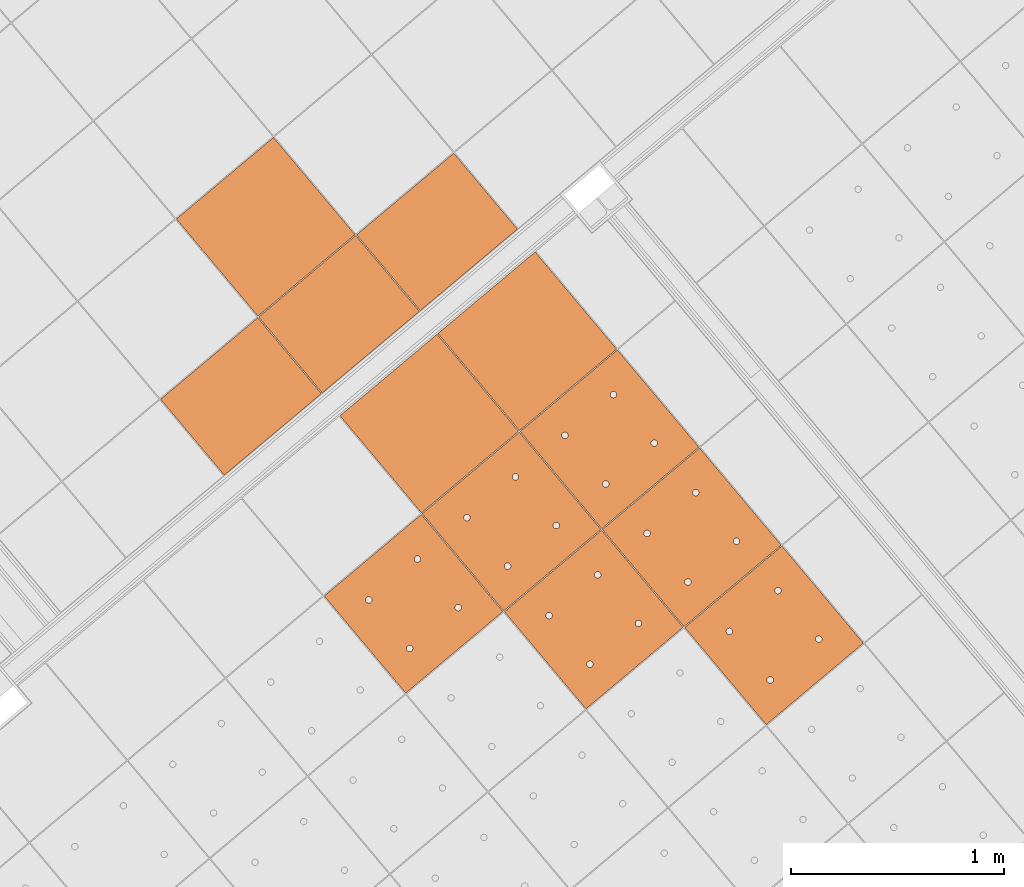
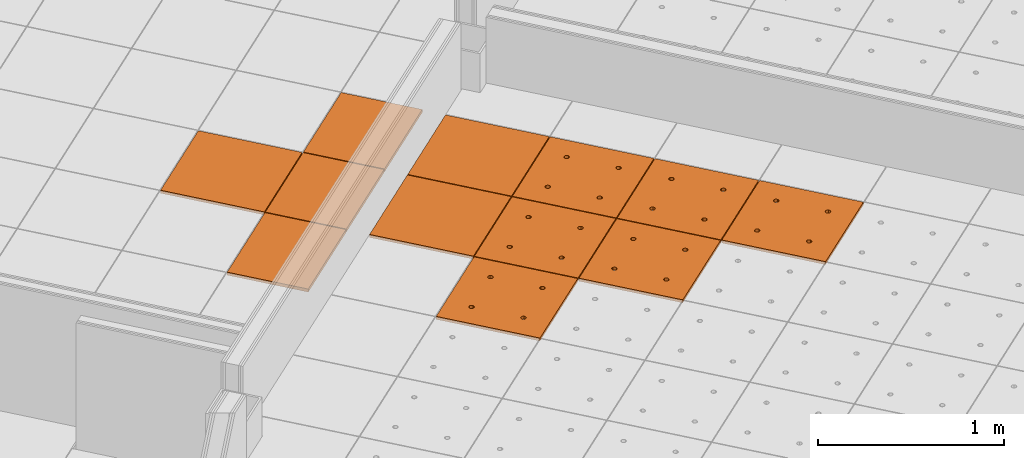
# One storey, part 146 of 338: 12 proxies, 2 elements without a shape of their own.
"""IFC2X3 building model written with IfcOpenShell, lengths in millimetres."""

from ifc_helpers import new_model, entity, si_unit, converted_unit, derived_unit, money_unit, direction, frame, origin_with_axes, place, context, subcontext, project, spatial, faceted_brep, source, transform, mapped, material, type_object, type_shapes, element, aggregate, save


model = new_model("IFC2X3")

# Units and contexts
model_context = context("Model", 3, precision=0.01, world=origin_with_axes(), true_north=direction((0.0, 1.0)))
plan_context = context("Plan", 3, precision=0.01, world=origin_with_axes(), true_north=direction((0.0, 1.0)))
body_context = subcontext(model_context, "Body", "Model", "MODEL_VIEW")
ifc_project = project(units=[si_unit("LENGTHUNIT", "METRE", prefix="MILLI"), si_unit("AREAUNIT", "SQUARE_METRE"), si_unit("VOLUMEUNIT", "CUBIC_METRE"), converted_unit("PLANEANGLEUNIT", "DEGREE", entity("IfcPlaneAngleMeasure", 0.0174532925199), si_unit("PLANEANGLEUNIT", "RADIAN"), dimensions=[0, 0, 0, 0, 0, 0, 0]), money_unit("EUR"), converted_unit("TIMEUNIT", "Year", entity("IfcTimeMeasure", 31556926.0), si_unit("TIMEUNIT", "SECOND"), dimensions=[0, 0, 1, 0, 0, 0, 0]), si_unit("MASSUNIT", "GRAM", prefix="KILO"), si_unit("THERMODYNAMICTEMPERATUREUNIT", "DEGREE_CELSIUS"), si_unit("LUMINOUSINTENSITYUNIT", "LUMEN"), si_unit("ENERGYUNIT", "JOULE", prefix="MEGA"), derived_unit("THERMALCONDUCTANCEUNIT", [(si_unit("POWERUNIT", "WATT"), 1), (si_unit("LENGTHUNIT", "METRE"), -1), (si_unit("THERMODYNAMICTEMPERATUREUNIT", "KELVIN"), -1)]), derived_unit("SPECIFICHEATCAPACITYUNIT", [(si_unit("ENERGYUNIT", "JOULE"), 1), (si_unit("MASSUNIT", "GRAM", prefix="KILO"), -1), (si_unit("THERMODYNAMICTEMPERATUREUNIT", "KELVIN"), -1)]), derived_unit("MASSDENSITYUNIT", [(si_unit("MASSUNIT", "GRAM", prefix="KILO"), 1), (si_unit("VOLUMEUNIT", "CUBIC_METRE"), -1)])], contexts=[model_context, plan_context])

# Site, building, storey
site_placement = place(None, origin_with_axes())
site = spatial("IfcSite", under=ifc_project, at=site_placement, Name="Fortuinstraat Woensdrecht", CompositionType="ELEMENT")
building_placement = place(site_placement, origin_with_axes())
building = spatial("IfcBuilding", under=site, at=building_placement, Name="IKC Fortuna", CompositionType="ELEMENT")
storey_placement = place(building_placement, origin_with_axes())
storey = spatial("IfcBuildingStorey", under=building, at=storey_placement, Name="00 begane grond", CompositionType="ELEMENT", Elevation=0.0)

# Covering, proxies
covering_type = type_object("IfcCoveringType", Name="Curtain Wall Type", PredefinedType="CEILING")
covering_1_placement = place(storey_placement, frame((17937.1227498, -4186.27868692, 4660.0), z_axis=(0.0, 0.0, 1.0), x_axis=(1.0, 0.0, 0.0)))
covering_1 = element("IfcCovering", 1, at=covering_1_placement, inside=storey, type_object=covering_type, Name="45_Plafondafwerking_P02", PredefinedType="CEILING")
ifc_material = material(Name="Gipsplaat")
building_element_proxy_type_1 = type_object("IfcBuildingElementProxyType", Name="Distinct Panel 600 x 600 x 20", PredefinedType="NOTDEFINED")
shared_shape_1 = source(origin_with_axes(), body_context, "Body", "Brep", [
    faceted_brep([(2.49999999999, 2.5, -10.0), (597.5, 2.49999999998, -10.0), (597.5, 2.49999999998, 10.0), (2.49999999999, 2.5, 10.0), (2.50000000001, 597.5, -10.0), (597.5, 597.5, -10.0), (597.5, 597.5, 10.0), (2.50000000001, 597.5, 10.0)], [[[0, 1, 2, 3]], [[0, 4, 5, 1]], [[1, 5, 6, 2]], [[3, 2, 6, 7]], [[4, 0, 3, 7]], [[5, 4, 7, 6]]]),
])
type_shapes(building_element_proxy_type_1, [shared_shape_1])
proxy_1_placement = place(covering_1_placement, frame((-4358.28029822, -2273.47858457, 2.18491891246e-10), z_axis=(0.0, 0.0, 1.0), x_axis=(1.0, 0.0, 0.0)))
proxy_1 = element("IfcBuildingElementProxy", 2, at=proxy_1_placement, type_object=building_element_proxy_type_1, material=ifc_material, Name="__Panel-D", context=body_context, shape_type="MappedRepresentation", body=[
    mapped(shared_shape_1, transform((36.9769427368, 422.649625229, 0.0), x_axis=(-0.766044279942, -0.642787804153, 0.0), y_axis=(0.642787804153, -0.766044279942, 0.0), z_axis=(0.0, 0.0, 1.0))),
])
building_element_proxy_type_2 = type_object("IfcBuildingElementProxyType", Name="Distinct Panel 600 x 470 x 20", PredefinedType="NOTDEFINED")
shared_shape_2 = source(origin_with_axes(), body_context, "Body", "Brep", [
    faceted_brep([(2.49999368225, 2.50000660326, -10.0), (597.499997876, 2.49999535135, -10.0), (597.499997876, 2.49999535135, 10.0), (2.49999368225, 2.50000660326, 10.0), (2.49999873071, 467.226768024, -10.0), (597.500011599, 467.226749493, -10.0), (597.500011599, 467.226749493, 10.0), (2.49999873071, 467.226768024, 10.0)], [[[0, 1, 2, 3]], [[0, 4, 5, 1]], [[1, 5, 6, 2]], [[3, 2, 6, 7]], [[4, 0, 3, 7]], [[5, 4, 7, 6]]]),
])
type_shapes(building_element_proxy_type_2, [shared_shape_2])
proxy_2_placement = place(covering_1_placement, frame((-4474.10320946, -3068.88029888, 2.3803181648e-10), z_axis=(0.0, 0.0, 1.0), x_axis=(1.0, 0.0, 0.0)))
proxy_2 = element("IfcBuildingElementProxy", 3, at=proxy_2_placement, type_object=building_element_proxy_type_2, material=ifc_material, Name="__Panel-D", context=body_context, shape_type="MappedRepresentation", body=[
    mapped(shared_shape_2, transform((78.8459684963, 372.752089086, 0.0), x_axis=(-0.766044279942, -0.642787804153, 0.0), y_axis=(0.642787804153, -0.766044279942, 0.0), z_axis=(0.0, 0.0, 1.0))),
])
proxy_3_placement = place(covering_1_placement, frame((-4014.47664149, -2683.20761639, 2.18491891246e-10), z_axis=(0.0, 0.0, 1.0), x_axis=(1.0, 0.0, 0.0)))
proxy_3 = element("IfcBuildingElementProxy", 4, at=proxy_3_placement, type_object=building_element_proxy_type_2, material=ifc_material, Name="__Panel-D", context=body_context, shape_type="MappedRepresentation", body=[
    mapped(shared_shape_2, transform((78.8459684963, 372.752089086, 0.0), x_axis=(-0.766044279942, -0.642787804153, 0.0), y_axis=(0.642787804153, -0.766044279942, 0.0), z_axis=(0.0, 0.0, 1.0))),
])
proxy_4_placement = place(covering_1_placement, frame((-3554.85007353, -2297.5349339, 1.98951966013e-10), z_axis=(0.0, 0.0, 1.0), x_axis=(1.0, 0.0, 0.0)))
proxy_4 = element("IfcBuildingElementProxy", 5, at=proxy_4_placement, type_object=building_element_proxy_type_2, material=ifc_material, Name="__Panel-D", context=body_context, shape_type="MappedRepresentation", body=[
    mapped(shared_shape_2, transform((78.8459684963, 372.752089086, 0.0), x_axis=(-0.766044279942, -0.642787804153, 0.0), y_axis=(0.642787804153, -0.766044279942, 0.0), z_axis=(0.0, 0.0, 1.0))),
])
aggregate(covering_1, [proxy_2, proxy_1, proxy_3, proxy_4])

covering_2_placement = place(storey_placement, frame((15150.6418133, -6622.13986243, 4660.0), z_axis=(0.0, 0.0, 1.0), x_axis=(1.0, 0.0, 0.0)))
covering_2 = element("IfcCovering", 6, at=covering_2_placement, inside=storey, type_object=covering_type, Name="45_Plafondafwerking_P01", PredefinedType="CEILING")
building_element_proxy_type_3 = type_object("IfcBuildingElementProxyType", Name="Main Panel 600 x 600 x 20", PredefinedType="NOTDEFINED")
shared_shape_3 = source(origin_with_axes(), body_context, "Body", "Brep", [
    faceted_brep([(2.49999999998, 2.49999999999, -10.0), (300.0, 2.49999999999, -10.0), (300.0, 2.49999999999, 10.0), (2.49999999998, 2.49999999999, 10.0), (2.49999999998, 300.0, -10.0), (2.49999999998, 597.5, -10.0), (300.0, 597.5, -10.0), (597.5, 597.5, -10.0), (597.5, 300.0, -10.0), (597.5, 2.49999999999, -10.0), (166.25, 450.06232995, -10.0), (165.79423259, 452.64711538, -10.0), (164.896546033, 455.11348892, -10.0), (163.58421608, 457.38651108, -10.0), (161.897117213, 459.39711721, -10.0), (159.886511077, 461.08421608, -10.0), (157.613488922, 462.39654603, -10.0), (155.147115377, 463.29423259, -10.0), (152.562329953, 463.75, -10.0), (149.937670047, 463.75, -10.0), (147.352884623, 463.29423259, -10.0), (144.886511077, 462.39654603, -10.0), (142.613488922, 461.08421608, -10.0), (140.602882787, 459.39711721, -10.0), (138.91578392, 457.38651108, -10.0), (137.603453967, 455.11348892, -10.0), (136.705767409, 452.64711538, -10.0), (136.25, 450.06232995, -10.0), (136.25, 448.75, -10.0), (136.25, 447.43767005, -10.0), (136.705767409, 444.85288462, -10.0), (137.603453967, 442.38651108, -10.0), (138.91578392, 440.11348892, -10.0), (140.602882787, 438.10288279, -10.0), (142.613488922, 436.41578392, -10.0), (144.886511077, 435.10345397, -10.0), (147.352884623, 434.20576741, -10.0), (149.937670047, 433.75, -10.0), (152.562329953, 433.75, -10.0), (155.147115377, 434.20576741, -10.0), (157.613488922, 435.10345397, -10.0), (159.886511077, 436.41578392, -10.0), (161.897117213, 438.10288279, -10.0), (163.58421608, 440.11348892, -10.0), (164.896546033, 442.38651108, -10.0), (165.79423259, 444.85288462, -10.0), (166.25, 447.43767005, -10.0), (463.75, 450.06232995, -10.0), (463.29423259, 452.64711538, -10.0), (462.396546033, 455.11348892, -10.0), (461.08421608, 457.38651108, -10.0), (459.397117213, 459.39711721, -10.0), (457.386511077, 461.08421608, -10.0), (455.113488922, 462.39654603, -10.0), (452.647115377, 463.29423259, -10.0), (450.062329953, 463.75, -10.0), (447.437670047, 463.75, -10.0), (444.852884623, 463.29423259, -10.0), (442.386511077, 462.39654603, -10.0), (440.113488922, 461.08421608, -10.0), (438.102882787, 459.39711721, -10.0), (436.41578392, 457.38651108, -10.0), (435.103453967, 455.11348892, -10.0), (434.205767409, 452.64711538, -10.0), (433.75, 450.06232995, -10.0), (433.75, 448.75, -10.0), (433.75, 447.43767005, -10.0), (434.205767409, 444.85288462, -10.0), (435.103453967, 442.38651108, -10.0), (436.41578392, 440.11348892, -10.0), (438.102882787, 438.10288279, -10.0), (440.113488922, 436.41578392, -10.0), (442.386511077, 435.10345397, -10.0), (444.852884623, 434.20576741, -10.0), (447.437670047, 433.75, -10.0), (450.062329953, 433.75, -10.0), (452.647115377, 434.20576741, -10.0), (455.113488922, 435.10345397, -10.0), (457.386511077, 436.41578392, -10.0), (459.397117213, 438.10288279, -10.0), (461.08421608, 440.11348892, -10.0), (462.396546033, 442.38651108, -10.0), (463.29423259, 444.85288462, -10.0), (463.75, 447.43767005, -10.0), (463.75, 152.56232995, -10.0), (463.29423259, 155.14711538, -10.0), (462.396546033, 157.61348892, -10.0), (461.08421608, 159.88651108, -10.0), (459.397117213, 161.89711721, -10.0), (457.386511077, 163.58421608, -10.0), (455.113488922, 164.89654603, -10.0), (452.647115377, 165.79423259, -10.0), (450.062329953, 166.25, -10.0), (447.437670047, 166.25, -10.0), (444.852884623, 165.79423259, -10.0), (442.386511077, 164.89654603, -10.0), (440.113488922, 163.58421608, -10.0), (438.102882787, 161.89711721, -10.0), (436.41578392, 159.88651108, -10.0), (435.103453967, 157.61348892, -10.0), (434.205767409, 155.14711538, -10.0), (433.75, 152.56232995, -10.0), (433.75, 151.25, -10.0), (433.75, 149.93767005, -10.0), (434.205767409, 147.35288462, -10.0), (435.103453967, 144.88651108, -10.0), (436.41578392, 142.61348892, -10.0), (438.102882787, 140.60288279, -10.0), (440.113488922, 138.91578392, -10.0), (442.386511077, 137.60345397, -10.0), (444.852884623, 136.70576741, -10.0), (447.437670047, 136.25, -10.0), (450.062329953, 136.25, -10.0), (452.647115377, 136.70576741, -10.0), (455.113488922, 137.60345397, -10.0), (457.386511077, 138.91578392, -10.0), (459.397117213, 140.60288279, -10.0), (461.08421608, 142.61348892, -10.0), (462.396546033, 144.88651108, -10.0), (463.29423259, 147.35288462, -10.0), (463.75, 149.93767005, -10.0), (166.25, 152.56232995, -10.0), (165.79423259, 155.14711538, -10.0), (164.896546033, 157.61348892, -10.0), (163.58421608, 159.88651108, -10.0), (161.897117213, 161.89711721, -10.0), (159.886511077, 163.58421608, -10.0), (157.613488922, 164.89654603, -10.0), (155.147115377, 165.79423259, -10.0), (152.562329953, 166.25, -10.0), (149.937670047, 166.25, -10.0), (147.352884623, 165.79423259, -10.0), (144.886511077, 164.89654603, -10.0), (142.613488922, 163.58421608, -10.0), (140.602882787, 161.89711721, -10.0), (138.91578392, 159.88651108, -10.0), (137.603453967, 157.61348892, -10.0), (136.705767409, 155.14711538, -10.0), (136.25, 152.56232995, -10.0), (136.25, 151.25, -10.0), (136.25, 149.93767005, -10.0), (136.705767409, 147.35288462, -10.0), (137.603453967, 144.88651108, -10.0), (138.91578392, 142.61348892, -10.0), (140.602882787, 140.60288279, -10.0), (142.613488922, 138.91578392, -10.0), (144.886511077, 137.60345397, -10.0), (147.352884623, 136.70576741, -10.0), (149.937670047, 136.25, -10.0), (152.562329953, 136.25, -10.0), (155.147115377, 136.70576741, -10.0), (157.613488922, 137.60345397, -10.0), (159.886511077, 138.91578392, -10.0), (161.897117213, 140.60288279, -10.0), (163.58421608, 142.61348892, -10.0), (164.896546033, 144.88651108, -10.0), (165.79423259, 147.35288462, -10.0), (166.25, 149.93767005, -10.0), (597.5, 2.49999999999, 10.0), (597.5, 300.0, 10.0), (597.5, 597.5, 10.0), (300.0, 597.5, 10.0), (2.49999999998, 597.5, 10.0), (2.49999999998, 300.0, 10.0), (166.25, 450.06232995, 10.0), (166.25, 447.43767005, 10.0), (165.79423259, 444.85288462, 10.0), (164.896546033, 442.38651108, 10.0), (163.58421608, 440.11348892, 10.0), (161.897117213, 438.10288279, 10.0), (159.886511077, 436.41578392, 10.0), (157.613488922, 435.10345397, 10.0), (155.147115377, 434.20576741, 10.0), (152.562329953, 433.75, 10.0), (149.937670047, 433.75, 10.0), (147.352884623, 434.20576741, 10.0), (144.886511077, 435.10345397, 10.0), (142.613488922, 436.41578392, 10.0), (140.602882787, 438.10288279, 10.0), (138.91578392, 440.11348892, 10.0), (137.603453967, 442.38651108, 10.0), (136.705767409, 444.85288462, 10.0), (136.25, 447.43767005, 10.0), (136.25, 448.75, 10.0), (136.25, 450.06232995, 10.0), (136.705767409, 452.64711538, 10.0), (137.603453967, 455.11348892, 10.0), (138.91578392, 457.38651108, 10.0), (140.602882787, 459.39711721, 10.0), (142.613488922, 461.08421608, 10.0), (144.886511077, 462.39654603, 10.0), (147.352884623, 463.29423259, 10.0), (149.937670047, 463.75, 10.0), (152.562329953, 463.75, 10.0), (155.147115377, 463.29423259, 10.0), (157.613488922, 462.39654603, 10.0), (159.886511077, 461.08421608, 10.0), (161.897117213, 459.39711721, 10.0), (163.58421608, 457.38651108, 10.0), (164.896546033, 455.11348892, 10.0), (165.79423259, 452.64711538, 10.0), (463.75, 450.06232995, 10.0), (463.75, 447.43767005, 10.0), (463.29423259, 444.85288462, 10.0), (462.396546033, 442.38651108, 10.0), (461.08421608, 440.11348892, 10.0), (459.397117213, 438.10288279, 10.0), (457.386511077, 436.41578392, 10.0), (455.113488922, 435.10345397, 10.0), (452.647115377, 434.20576741, 10.0), (450.062329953, 433.75, 10.0), (447.437670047, 433.75, 10.0), (444.852884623, 434.20576741, 10.0), (442.386511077, 435.10345397, 10.0), (440.113488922, 436.41578392, 10.0), (438.102882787, 438.10288279, 10.0), (436.41578392, 440.11348892, 10.0), (435.103453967, 442.38651108, 10.0), (434.205767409, 444.85288462, 10.0), (433.75, 447.43767005, 10.0), (433.75, 448.75, 10.0), (433.75, 450.06232995, 10.0), (434.205767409, 452.64711538, 10.0), (435.103453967, 455.11348892, 10.0), (436.41578392, 457.38651108, 10.0), (438.102882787, 459.39711721, 10.0), (440.113488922, 461.08421608, 10.0), (442.386511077, 462.39654603, 10.0), (444.852884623, 463.29423259, 10.0), (447.437670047, 463.75, 10.0), (450.062329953, 463.75, 10.0), (452.647115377, 463.29423259, 10.0), (455.113488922, 462.39654603, 10.0), (457.386511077, 461.08421608, 10.0), (459.397117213, 459.39711721, 10.0), (461.08421608, 457.38651108, 10.0), (462.396546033, 455.11348892, 10.0), (463.29423259, 452.64711538, 10.0), (463.75, 152.56232995, 10.0), (463.75, 149.93767005, 10.0), (463.29423259, 147.35288462, 10.0), (462.396546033, 144.88651108, 10.0), (461.08421608, 142.61348892, 10.0), (459.397117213, 140.60288279, 10.0), (457.386511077, 138.91578392, 10.0), (455.113488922, 137.60345397, 10.0), (452.647115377, 136.70576741, 10.0), (450.062329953, 136.25, 10.0), (447.437670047, 136.25, 10.0), (444.852884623, 136.70576741, 10.0), (442.386511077, 137.60345397, 10.0), (440.113488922, 138.91578392, 10.0), (438.102882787, 140.60288279, 10.0), (436.41578392, 142.61348892, 10.0), (435.103453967, 144.88651108, 10.0), (434.205767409, 147.35288462, 10.0), (433.75, 149.93767005, 10.0), (433.75, 151.25, 10.0), (433.75, 152.56232995, 10.0), (434.205767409, 155.14711538, 10.0), (435.103453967, 157.61348892, 10.0), (436.41578392, 159.88651108, 10.0), (438.102882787, 161.89711721, 10.0), (440.113488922, 163.58421608, 10.0), (442.386511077, 164.89654603, 10.0), (444.852884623, 165.79423259, 10.0), (447.437670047, 166.25, 10.0), (450.062329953, 166.25, 10.0), (452.647115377, 165.79423259, 10.0), (455.113488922, 164.89654603, 10.0), (457.386511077, 163.58421608, 10.0), (459.397117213, 161.89711721, 10.0), (461.08421608, 159.88651108, 10.0), (462.396546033, 157.61348892, 10.0), (463.29423259, 155.14711538, 10.0), (166.25, 152.56232995, 10.0), (166.25, 149.93767005, 10.0), (165.79423259, 147.35288462, 10.0), (164.896546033, 144.88651108, 10.0), (163.58421608, 142.61348892, 10.0), (161.897117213, 140.60288279, 10.0), (159.886511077, 138.91578392, 10.0), (157.613488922, 137.60345397, 10.0), (155.147115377, 136.70576741, 10.0), (152.562329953, 136.25, 10.0), (149.937670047, 136.25, 10.0), (147.352884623, 136.70576741, 10.0), (144.886511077, 137.60345397, 10.0), (142.613488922, 138.91578392, 10.0), (140.602882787, 140.60288279, 10.0), (138.91578392, 142.61348892, 10.0), (137.603453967, 144.88651108, 10.0), (136.705767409, 147.35288462, 10.0), (136.25, 149.93767005, 10.0), (136.25, 151.25, 10.0), (136.25, 152.56232995, 10.0), (136.705767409, 155.14711538, 10.0), (137.603453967, 157.61348892, 10.0), (138.91578392, 159.88651108, 10.0), (140.602882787, 161.89711721, 10.0), (142.613488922, 163.58421608, 10.0), (144.886511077, 164.89654603, 10.0), (147.352884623, 165.79423259, 10.0), (149.937670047, 166.25, 10.0), (152.562329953, 166.25, 10.0), (155.147115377, 165.79423259, 10.0), (157.613488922, 164.89654603, 10.0), (159.886511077, 163.58421608, 10.0), (161.897117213, 161.89711721, 10.0), (163.58421608, 159.88651108, 10.0), (164.896546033, 157.61348892, 10.0), (165.79423259, 155.14711538, 10.0)], [[[0, 1, 2, 3]], [[0, 4, 5, 6, 7, 8, 9, 1], [10, 11, 12, 13, 14, 15, 16, 17, 18, 19, 20, 21, 22, 23, 24, 25, 26, 27, 28, 29, 30, 31, 32, 33, 34, 35, 36, 37, 38, 39, 40, 41, 42, 43, 44, 45, 46], [47, 48, 49, 50, 51, 52, 53, 54, 55, 56, 57, 58, 59, 60, 61, 62, 63, 64, 65, 66, 67, 68, 69, 70, 71, 72, 73, 74, 75, 76, 77, 78, 79, 80, 81, 82, 83], [84, 85, 86, 87, 88, 89, 90, 91, 92, 93, 94, 95, 96, 97, 98, 99, 100, 101, 102, 103, 104, 105, 106, 107, 108, 109, 110, 111, 112, 113, 114, 115, 116, 117, 118, 119, 120], [121, 122, 123, 124, 125, 126, 127, 128, 129, 130, 131, 132, 133, 134, 135, 136, 137, 138, 139, 140, 141, 142, 143, 144, 145, 146, 147, 148, 149, 150, 151, 152, 153, 154, 155, 156, 157]], [[1, 9, 158, 2]], [[3, 2, 158, 159, 160, 161, 162, 163], [164, 165, 166, 167, 168, 169, 170, 171, 172, 173, 174, 175, 176, 177, 178, 179, 180, 181, 182, 183, 184, 185, 186, 187, 188, 189, 190, 191, 192, 193, 194, 195, 196, 197, 198, 199, 200], [201, 202, 203, 204, 205, 206, 207, 208, 209, 210, 211, 212, 213, 214, 215, 216, 217, 218, 219, 220, 221, 222, 223, 224, 225, 226, 227, 228, 229, 230, 231, 232, 233, 234, 235, 236, 237], [238, 239, 240, 241, 242, 243, 244, 245, 246, 247, 248, 249, 250, 251, 252, 253, 254, 255, 256, 257, 258, 259, 260, 261, 262, 263, 264, 265, 266, 267, 268, 269, 270, 271, 272, 273, 274], [275, 276, 277, 278, 279, 280, 281, 282, 283, 284, 285, 286, 287, 288, 289, 290, 291, 292, 293, 294, 295, 296, 297, 298, 299, 300, 301, 302, 303, 304, 305, 306, 307, 308, 309, 310, 311]], [[4, 0, 3, 163]], [[5, 4, 163, 162]], [[6, 5, 162, 161]], [[7, 6, 161, 160]], [[8, 7, 160, 159]], [[9, 8, 159, 158]], [[11, 10, 164, 200]], [[12, 11, 200, 199]], [[13, 12, 199, 198]], [[14, 13, 198, 197]], [[15, 14, 197, 196]], [[16, 15, 196, 195]], [[17, 16, 195, 194]], [[18, 17, 194, 193]], [[19, 18, 193, 192]], [[20, 19, 192, 191]], [[21, 20, 191, 190]], [[22, 21, 190, 189]], [[23, 22, 189, 188]], [[24, 23, 188, 187]], [[25, 24, 187, 186]], [[26, 25, 186, 185]], [[27, 26, 185, 184]], [[28, 27, 184, 183]], [[29, 28, 183, 182]], [[30, 29, 182, 181]], [[31, 30, 181, 180]], [[32, 31, 180, 179]], [[33, 32, 179, 178]], [[34, 33, 178, 177]], [[35, 34, 177, 176]], [[36, 35, 176, 175]], [[37, 36, 175, 174]], [[38, 37, 174, 173]], [[39, 38, 173, 172]], [[40, 39, 172, 171]], [[41, 40, 171, 170]], [[42, 41, 170, 169]], [[43, 42, 169, 168]], [[44, 43, 168, 167]], [[45, 44, 167, 166]], [[46, 45, 166, 165]], [[10, 46, 165, 164]], [[48, 47, 201, 237]], [[49, 48, 237, 236]], [[50, 49, 236, 235]], [[51, 50, 235, 234]], [[52, 51, 234, 233]], [[53, 52, 233, 232]], [[54, 53, 232, 231]], [[55, 54, 231, 230]], [[56, 55, 230, 229]], [[57, 56, 229, 228]], [[58, 57, 228, 227]], [[59, 58, 227, 226]], [[60, 59, 226, 225]], [[61, 60, 225, 224]], [[62, 61, 224, 223]], [[63, 62, 223, 222]], [[64, 63, 222, 221]], [[65, 64, 221, 220]], [[66, 65, 220, 219]], [[67, 66, 219, 218]], [[68, 67, 218, 217]], [[69, 68, 217, 216]], [[70, 69, 216, 215]], [[71, 70, 215, 214]], [[72, 71, 214, 213]], [[73, 72, 213, 212]], [[74, 73, 212, 211]], [[75, 74, 211, 210]], [[76, 75, 210, 209]], [[77, 76, 209, 208]], [[78, 77, 208, 207]], [[79, 78, 207, 206]], [[80, 79, 206, 205]], [[81, 80, 205, 204]], [[82, 81, 204, 203]], [[83, 82, 203, 202]], [[47, 83, 202, 201]], [[85, 84, 238, 274]], [[86, 85, 274, 273]], [[87, 86, 273, 272]], [[88, 87, 272, 271]], [[89, 88, 271, 270]], [[90, 89, 270, 269]], [[91, 90, 269, 268]], [[92, 91, 268, 267]], [[93, 92, 267, 266]], [[94, 93, 266, 265]], [[95, 94, 265, 264]], [[96, 95, 264, 263]], [[97, 96, 263, 262]], [[98, 97, 262, 261]], [[99, 98, 261, 260]], [[100, 99, 260, 259]], [[101, 100, 259, 258]], [[102, 101, 258, 257]], [[103, 102, 257, 256]], [[104, 103, 256, 255]], [[105, 104, 255, 254]], [[106, 105, 254, 253]], [[107, 106, 253, 252]], [[108, 107, 252, 251]], [[109, 108, 251, 250]], [[110, 109, 250, 249]], [[111, 110, 249, 248]], [[112, 111, 248, 247]], [[113, 112, 247, 246]], [[114, 113, 246, 245]], [[115, 114, 245, 244]], [[116, 115, 244, 243]], [[117, 116, 243, 242]], [[118, 117, 242, 241]], [[119, 118, 241, 240]], [[120, 119, 240, 239]], [[84, 120, 239, 238]], [[122, 121, 275, 311]], [[123, 122, 311, 310]], [[124, 123, 310, 309]], [[125, 124, 309, 308]], [[126, 125, 308, 307]], [[127, 126, 307, 306]], [[128, 127, 306, 305]], [[129, 128, 305, 304]], [[130, 129, 304, 303]], [[131, 130, 303, 302]], [[132, 131, 302, 301]], [[133, 132, 301, 300]], [[134, 133, 300, 299]], [[135, 134, 299, 298]], [[136, 135, 298, 297]], [[137, 136, 297, 296]], [[138, 137, 296, 295]], [[139, 138, 295, 294]], [[140, 139, 294, 293]], [[141, 140, 293, 292]], [[142, 141, 292, 291]], [[143, 142, 291, 290]], [[144, 143, 290, 289]], [[145, 144, 289, 288]], [[146, 145, 288, 287]], [[147, 146, 287, 286]], [[148, 147, 286, 285]], [[149, 148, 285, 284]], [[150, 149, 284, 283]], [[151, 150, 283, 282]], [[152, 151, 282, 281]], [[153, 152, 281, 280]], [[154, 153, 280, 279]], [[155, 154, 279, 278]], [[156, 155, 278, 277]], [[157, 156, 277, 276]], [[121, 157, 276, 275]]]),
])
type_shapes(building_element_proxy_type_3, [shared_shape_3])
proxy_5_placement = place(covering_2_placement, frame((40.6506835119, -833.984914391, 0.0), z_axis=(0.0, 0.0, 1.0), x_axis=(1.0, 0.0, 0.0)))
proxy_5 = element("IfcBuildingElementProxy", 7, at=proxy_5_placement, type_object=building_element_proxy_type_3, material=ifc_material, Name="__600x639 Rockfon Krios", context=body_context, shape_type="MappedRepresentation", body=[
    mapped(shared_shape_3, transform((36.9769427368, 422.649625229, 0.0), x_axis=(-0.766044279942, -0.642787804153, 0.0), y_axis=(0.642787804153, -0.766044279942, 0.0), z_axis=(0.0, 0.0, 1.0))),
])
proxy_6_placement = place(covering_2_placement, frame((426.323366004, -1293.61148236, 0.0), z_axis=(0.0, 0.0, 1.0), x_axis=(1.0, 0.0, 0.0)))
proxy_6 = element("IfcBuildingElementProxy", 8, at=proxy_6_placement, type_object=building_element_proxy_type_3, material=ifc_material, Name="__600x640 Rockfon Krios", context=body_context, shape_type="MappedRepresentation", body=[
    mapped(shared_shape_3, transform((36.9769427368, 422.649625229, 0.0), x_axis=(-0.766044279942, -0.642787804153, 0.0), y_axis=(0.642787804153, -0.766044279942, 0.0), z_axis=(0.0, 0.0, 1.0))),
])
proxy_7_placement = place(covering_2_placement, frame((-418.975884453, -1219.65759688, 0.0), z_axis=(0.0, 0.0, 1.0), x_axis=(1.0, 0.0, 0.0)))
proxy_7 = element("IfcBuildingElementProxy", 9, at=proxy_7_placement, type_object=building_element_proxy_type_3, material=ifc_material, Name="__600x643 Rockfon Krios", context=body_context, shape_type="MappedRepresentation", body=[
    mapped(shared_shape_3, transform((36.9769427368, 422.649625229, 0.0), x_axis=(-0.766044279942, -0.642787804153, 0.0), y_axis=(0.642787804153, -0.766044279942, 0.0), z_axis=(0.0, 0.0, 1.0))),
])
proxy_8_placement = place(covering_2_placement, frame((-33.3032019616, -1679.28416485, 0.0), z_axis=(0.0, 0.0, 1.0), x_axis=(1.0, 0.0, 0.0)))
proxy_8 = element("IfcBuildingElementProxy", 10, at=proxy_8_placement, type_object=building_element_proxy_type_3, material=ifc_material, Name="__600x644 Rockfon Krios", context=body_context, shape_type="MappedRepresentation", body=[
    mapped(shared_shape_3, transform((36.9769427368, 422.649625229, 0.0), x_axis=(-0.766044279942, -0.642787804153, 0.0), y_axis=(0.642787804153, -0.766044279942, 0.0), z_axis=(0.0, 0.0, 1.0))),
])
proxy_9_placement = place(covering_2_placement, frame((-878.602452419, -1605.33027937, 0.0), z_axis=(0.0, 0.0, 1.0), x_axis=(1.0, 0.0, 0.0)))
proxy_9 = element("IfcBuildingElementProxy", 11, at=proxy_9_placement, type_object=building_element_proxy_type_3, material=ifc_material, Name="__600x647 Rockfon Krios", context=body_context, shape_type="MappedRepresentation", body=[
    mapped(shared_shape_3, transform((36.9769427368, 422.649625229, 0.0), x_axis=(-0.766044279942, -0.642787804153, 0.0), y_axis=(0.642787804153, -0.766044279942, 0.0), z_axis=(0.0, 0.0, 1.0))),
])
proxy_10_placement = place(covering_2_placement, frame((811.996048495, -1753.23805032, 0.0), z_axis=(0.0, 0.0, 1.0), x_axis=(1.0, 0.0, 0.0)))
proxy_10 = element("IfcBuildingElementProxy", 12, at=proxy_10_placement, type_object=building_element_proxy_type_3, material=ifc_material, Name="__600x660 Rockfon Krios", context=body_context, shape_type="MappedRepresentation", body=[
    mapped(shared_shape_3, transform((36.9769427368, 422.649625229, 0.0), x_axis=(-0.766044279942, -0.642787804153, 0.0), y_axis=(0.642787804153, -0.766044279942, 0.0), z_axis=(0.0, 0.0, 1.0))),
])
building_element_proxy_type_4 = type_object("IfcBuildingElementProxyType", Name="600 x 600 x 20", PredefinedType="NOTDEFINED")
shared_shape_4 = source(origin_with_axes(), body_context, "Body", "Brep", [
    faceted_brep([(2.49999732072, 2.50000913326, -10.0), (597.499988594, 2.49999469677, -10.0), (597.499988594, 2.49999469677, 10.0), (2.49999732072, 2.50000913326, 10.0), (2.49999902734, 597.500043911, -10.0), (597.499988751, 597.500047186, -10.0), (597.499988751, 597.500047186, 10.0), (2.49999902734, 597.500043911, 10.0)], [[[0, 1, 2, 3]], [[0, 4, 5, 1]], [[1, 5, 6, 2]], [[3, 2, 6, 7]], [[4, 0, 3, 7]], [[5, 4, 7, 6]]]),
])
type_shapes(building_element_proxy_type_4, [shared_shape_4])
proxy_11_placement = place(covering_2_placement, frame((-804.648566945, -760.031028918, 0.0), z_axis=(0.0, 0.0, 1.0), x_axis=(1.0, 0.0, 0.0)))
proxy_11 = element("IfcBuildingElementProxy", 13, at=proxy_11_placement, type_object=building_element_proxy_type_4, material=ifc_material, Name="__600x624 Rockfon Krios", context=body_context, shape_type="MappedRepresentation", body=[
    mapped(shared_shape_4, transform((36.9769427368, 422.649625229, 0.0), x_axis=(-0.766044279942, -0.642787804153, 0.0), y_axis=(0.642787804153, -0.766044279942, 0.0), z_axis=(0.0, 0.0, 1.0))),
])
proxy_12_placement = place(covering_2_placement, frame((-345.02199898, -374.358346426, 0.0), z_axis=(0.0, 0.0, 1.0), x_axis=(1.0, 0.0, 0.0)))
proxy_12 = element("IfcBuildingElementProxy", 14, at=proxy_12_placement, type_object=building_element_proxy_type_4, material=ifc_material, Name="__600x646 Rockfon Krios", context=body_context, shape_type="MappedRepresentation", body=[
    mapped(shared_shape_4, transform((36.9769427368, 422.649625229, 0.0), x_axis=(-0.766044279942, -0.642787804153, 0.0), y_axis=(0.642787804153, -0.766044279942, 0.0), z_axis=(0.0, 0.0, 1.0))),
])
aggregate(covering_2, [proxy_11, proxy_5, proxy_6, proxy_7, proxy_8, proxy_12, proxy_9, proxy_10])

save(model, "model.ifc")
